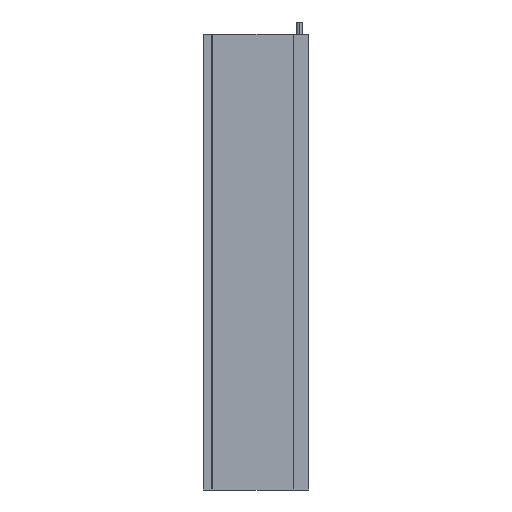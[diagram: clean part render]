
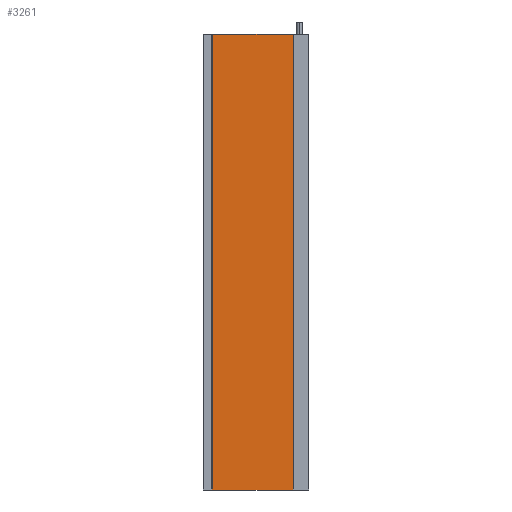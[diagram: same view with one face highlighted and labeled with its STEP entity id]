
A CAD part, left-side view. The second image highlights one B-rep face of the part: STEP entity #3261.
In plain terms, the highlighted planar face has unit normal (-1, 0, 0).
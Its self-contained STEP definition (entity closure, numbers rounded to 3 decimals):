
#49 = LINE ( 'NONE', #2926, #2577 ) ;
#63 = VERTEX_POINT ( 'NONE', #3033 ) ;
#101 = CARTESIAN_POINT ( 'NONE',  ( -5.31, -149.9, 757. ) ) ;
#115 = DIRECTION ( 'NONE',  ( 0., -1., 0. ) ) ;
#298 = EDGE_LOOP ( 'NONE', ( #1628, #2913, #398, #546 ) ) ;
#398 = ORIENTED_EDGE ( 'NONE', *, *, #660, .F. ) ;
#444 = VERTEX_POINT ( 'NONE', #3629 ) ;
#496 = CARTESIAN_POINT ( 'NONE',  ( -5.31, -149.9, 757. ) ) ;
#546 = ORIENTED_EDGE ( 'NONE', *, *, #644, .T. ) ;
#644 = EDGE_CURVE ( 'NONE', #2551, #63, #49, .T. ) ;
#660 = EDGE_CURVE ( 'NONE', #2551, #741, #3809, .T. ) ;
#741 = VERTEX_POINT ( 'NONE', #2525 ) ;
#799 = CARTESIAN_POINT ( 'NONE',  ( -5.31, -149.9, 757. ) ) ;
#815 = DIRECTION ( 'NONE',  ( 0., -1., 0. ) ) ;
#951 = LINE ( 'NONE', #496, #2693 ) ;
#966 = FACE_OUTER_BOUND ( 'NONE', #298, .T. ) ;
#1067 = DIRECTION ( 'NONE',  ( 0., 0., -1. ) ) ;
#1360 = EDGE_CURVE ( 'NONE', #741, #444, #951, .T. ) ;
#1628 = ORIENTED_EDGE ( 'NONE', *, *, #2483, .T. ) ;
#1675 = DIRECTION ( 'NONE',  ( 0., 1., 0. ) ) ;
#1761 = AXIS2_PLACEMENT_3D ( 'NONE', #101, #3504, #1675 ) ;
#1989 = LINE ( 'NONE', #2615, #2713 ) ;
#2348 = DIRECTION ( 'NONE',  ( 0., 0., -1. ) ) ;
#2483 = EDGE_CURVE ( 'NONE', #63, #444, #1989, .T. ) ;
#2525 = CARTESIAN_POINT ( 'NONE',  ( -5.31, -149.9, 757. ) ) ;
#2551 = VERTEX_POINT ( 'NONE', #3100 ) ;
#2577 = VECTOR ( 'NONE', #1067, 1000. ) ;
#2615 = CARTESIAN_POINT ( 'NONE',  ( -5.31, -149.9, 0. ) ) ;
#2693 = VECTOR ( 'NONE', #2348, 1000. ) ;
#2713 = VECTOR ( 'NONE', #115, 1000. ) ;
#2913 = ORIENTED_EDGE ( 'NONE', *, *, #1360, .F. ) ;
#2926 = CARTESIAN_POINT ( 'NONE',  ( -5.31, -15.5, 757. ) ) ;
#3033 = CARTESIAN_POINT ( 'NONE',  ( -5.31, -15.5, 0. ) ) ;
#3100 = CARTESIAN_POINT ( 'NONE',  ( -5.31, -15.5, 757. ) ) ;
#3196 = PLANE ( 'NONE',  #1761 ) ;
#3261 = ADVANCED_FACE ( 'NONE', ( #966 ), #3196, .F. ) ;
#3504 = DIRECTION ( 'NONE',  ( 1., 0., 0. ) ) ;
#3629 = CARTESIAN_POINT ( 'NONE',  ( -5.31, -149.9, 0. ) ) ;
#3666 = VECTOR ( 'NONE', #815, 1000. ) ;
#3809 = LINE ( 'NONE', #799, #3666 ) ;
